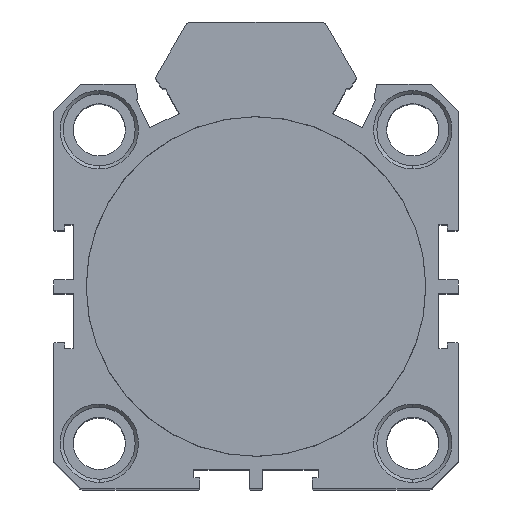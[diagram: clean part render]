
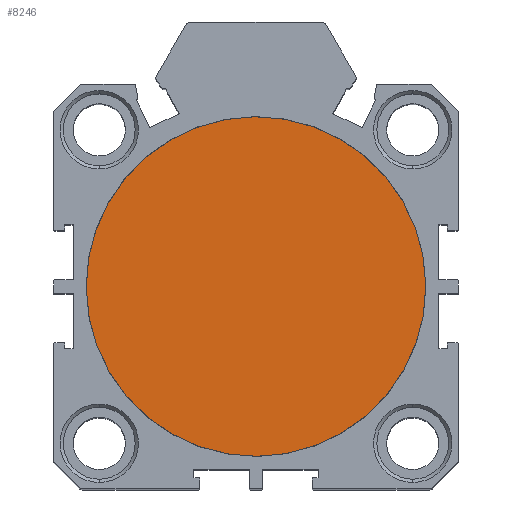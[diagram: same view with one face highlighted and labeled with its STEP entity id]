
A CAD part, top view. The second image highlights one B-rep face of the part: STEP entity #8246.
In plain terms, the highlighted planar face has unit normal (0, 0, 1) as drawn and (-1, 0, 0) by its records, which use the part's own axes.
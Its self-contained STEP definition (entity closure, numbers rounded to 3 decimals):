
#494 = CARTESIAN_POINT ( 'NONE',  ( -0.5, 0., 0. ) ) ;
#495 = DIRECTION ( 'NONE',  ( -1., 0., 0. ) ) ;
#502 = DIRECTION ( 'NONE',  ( 0., 0., 1. ) ) ;
#647 = CARTESIAN_POINT ( 'NONE',  ( -0.5, 26., 0. ) ) ;
#770 = CIRCLE ( 'NONE', #5441, 26. ) ;
#1578 = ORIENTED_EDGE ( 'NONE', *, *, #3244, .T. ) ;
#1689 = EDGE_CURVE ( 'NONE', #1743, #3808, #4487, .T. ) ;
#1743 = VERTEX_POINT ( 'NONE', #647 ) ;
#2930 = AXIS2_PLACEMENT_3D ( 'NONE', #3181, #8133, #8109 ) ;
#3181 = CARTESIAN_POINT ( 'NONE',  ( -0.5, 0., 0. ) ) ;
#3244 = EDGE_CURVE ( 'NONE', #3808, #1743, #770, .T. ) ;
#3538 = CARTESIAN_POINT ( 'NONE',  ( -0.5, -26., 0. ) ) ;
#3808 = VERTEX_POINT ( 'NONE', #3538 ) ;
#4433 = AXIS2_PLACEMENT_3D ( 'NONE', #494, #495, #502 ) ;
#4487 = CIRCLE ( 'NONE', #4433, 26. ) ;
#5441 = AXIS2_PLACEMENT_3D ( 'NONE', #6838, #6844, #6854 ) ;
#5921 = FACE_OUTER_BOUND ( 'NONE', #7011, .T. ) ;
#6838 = CARTESIAN_POINT ( 'NONE',  ( -0.5, 0., 0. ) ) ;
#6844 = DIRECTION ( 'NONE',  ( -1., 0., 0. ) ) ;
#6854 = DIRECTION ( 'NONE',  ( 0., 0., 1. ) ) ;
#7011 = EDGE_LOOP ( 'NONE', ( #1578, #7454 ) ) ;
#7454 = ORIENTED_EDGE ( 'NONE', *, *, #1689, .T. ) ;
#7985 = PLANE ( 'NONE',  #2930 ) ;
#8109 = DIRECTION ( 'NONE',  ( 0., 0., 1. ) ) ;
#8133 = DIRECTION ( 'NONE',  ( -1., 0., 0. ) ) ;
#8246 = ADVANCED_FACE ( 'NONE', ( #5921 ), #7985, .T. ) ;
